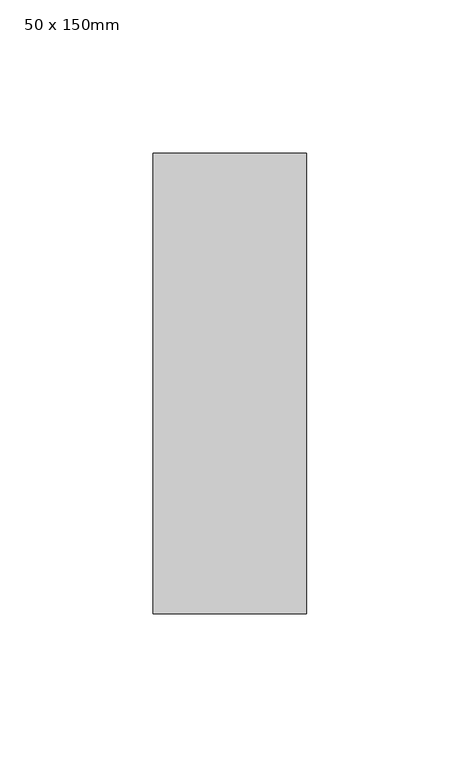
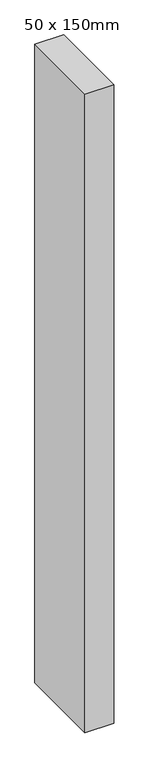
"""IFC4 building model written with IfcOpenShell, lengths in millimetres: member geometry, Прямоугольный импост : 50 x 150mm."""

from ifc_helpers import new_model, si_unit, frame, origin, place, context, project, spatial, polyline, outline, extrude, source, transform, mapped, element, save


def member_50_x_150mm_3dc7bfd3(model_context):
    return source(origin(), model_context, "Body", "SweptSolid", [
        extrude(outline(polyline([(0.0, 75.0), (0.0, -75.0), (-50.0, -75.0), (-50.0, 75.0), (0.0, 75.0)])), frame((0.0, 0.0, -1170.0), z_axis=(0.0, 0.0, 1.0), x_axis=(1.0, 0.0, 0.0)), (0.0, 0.0, 1.0), 1170.0),
    ])


if __name__ == "__main__":
    model = new_model("IFC4")
    model_context = context("Model", 3, world=origin())
    ifc_project = project(units=[si_unit("LENGTHUNIT", "METRE", prefix="MILLI")], contexts=[model_context])
    site = spatial("IfcSite", under=ifc_project)
    building = spatial("IfcBuilding", under=site)
    placement = place(None, origin())
    member_50_x_150mm_shape = member_50_x_150mm_3dc7bfd3(model_context)
    element("IfcMember", 1, ObjectType="Прямоугольный импост : 50 x 150mm", at=placement, inside=building, context=model_context, shape_type="MappedRepresentation", body=[
        mapped(member_50_x_150mm_shape, transform((0.0, 0.0, 0.0), x_axis=(1.0, 0.0, 0.0), y_axis=(0.0, 1.0, 0.0), z_axis=(0.0, 0.0, 1.0))),
    ])
    save(model, "model.ifc")
